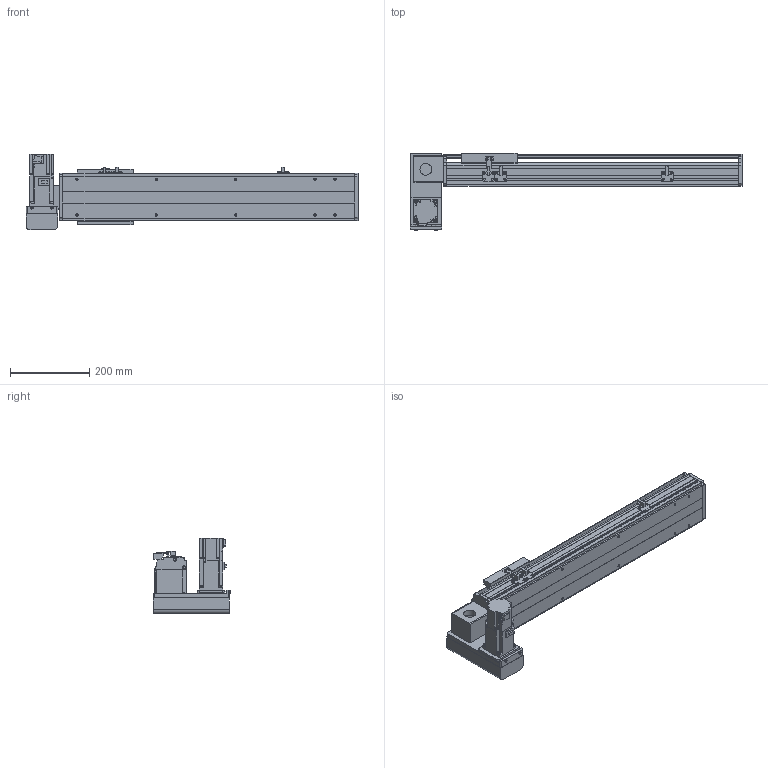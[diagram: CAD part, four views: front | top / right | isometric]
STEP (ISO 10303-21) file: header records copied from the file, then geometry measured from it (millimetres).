
FILE_DESCRIPTION( ( 'STEP AP214' ), '1' );
FILE_NAME( 'x:/temp/worker_27/temp/exporttempdir_6708_40_dzB7t/format_0/PBS120-P40-S450-LD-T40-C1-N(0).stp', '2022-06-06T00:15:46', ( 'License CC BY-ND 4.0' ), ( 'CADENAS' ), ' ', 'PARTsolutions', ' ' );
FILE_SCHEMA( ( 'AUTOMOTIVE_DESIGN { 1 0 10303 214 1 1 1 1 }' ) );
Length unit declared in the file: millimetre
Products named in the file (7): PBS120-P40-S450-LD-T40-C1-N(0); _PBS120-S450()_body; _PBS120T-LD_motors; _T40-p1; _PBS120_sliser; _PBS120_plant; _PBS120_sensor
Assembly tree (8 placements, depth 2):
  PBS120-P40-S450-LD-T40-C1-N(0)
    _PBS120-S450()_body
    _PBS120T-LD_motors
    _T40-p1
    _PBS120_sliser
    _PBS120_plant
    _PBS120_sensor  x3
Bounding box: 836 x 196 x 189.7 mm (x, y, z)
Volume: 4170861.4 mm3; surface area: 768913.6 mm2
Topology: 8 solids, 8 shells, 810 faces, 2126 edges, 1369 vertices
Faces by surface type: plane 543, cylinder 223, cone 42, torus 2
Full cylindrical faces by diameter (mm): 2.459 x6, 3.242 x4, 4 x2, 4.134 x4, 4.5 x10, 4.917 x14, 5.5 x11, 6 x2, 6.6 x1, 7 x2, 8.5 x4, 9 x4, 12 x1, 14 x1, 30 x2, 40 x1, 50 x2
Entity records: 26820 total; most frequent: DIRECTION 3668, CARTESIAN_POINT 3623, ORIENTED_EDGE 3466, EDGE_CURVE 1733, LINE 1228, VECTOR 1228, AXIS2_PLACEMENT_3D 1220, VERTEX_POINT 1175
